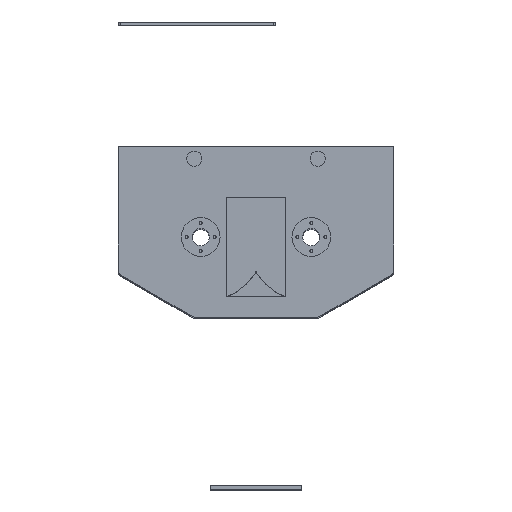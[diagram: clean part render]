
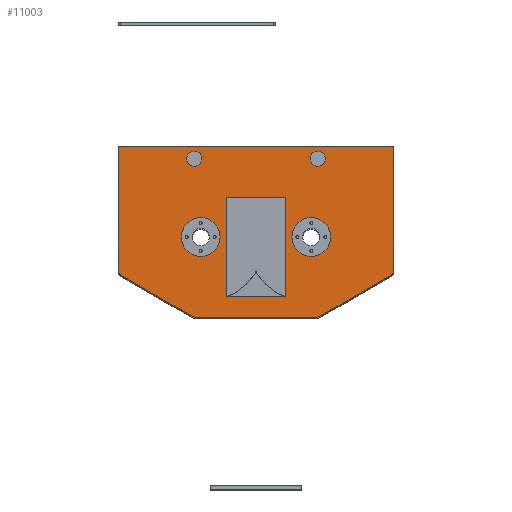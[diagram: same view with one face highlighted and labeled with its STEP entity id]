
A CAD part, top view. The second image highlights one B-rep face of the part: STEP entity #11003.
In plain terms, the highlighted planar face has unit normal (0, 0, 1) as drawn and (0, 0, -1) by its records, which use the part's own axes.
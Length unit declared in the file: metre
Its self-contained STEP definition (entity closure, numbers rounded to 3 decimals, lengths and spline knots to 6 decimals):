
#10852=CARTESIAN_POINT('',(0.395,-0.279,-0.84341));
#10853=DIRECTION('',(0.,0.,1.));
#10854=DIRECTION('',(1.,-0.,0.));
#10855=AXIS2_PLACEMENT_3D('',#10852,#10853,#10854);
#10856=PLANE('',#10855);
#10857=CARTESIAN_POINT('',(0.005,0.365,-0.84341));
#10858=VERTEX_POINT('',#10857);
#10859=CARTESIAN_POINT('',(-0.03,0.365,-0.84341));
#10860=DIRECTION('',(0.,0.,1.));
#10861=DIRECTION('',(1.,-0.,0.));
#10862=AXIS2_PLACEMENT_3D('',#10859,#10860,#10861);
#10863=CIRCLE('',#10862,0.035);
#10864=EDGE_CURVE('9969',#10858,#10858,#10863,.T.);
#10865=ORIENTED_EDGE('',*,*,#10864,.T.);
#10866=EDGE_LOOP('',(#10865));
#10867=FACE_BOUND('',#10866,.T.);
#10868=CARTESIAN_POINT('',(0.58,0.365,-0.84341));
#10869=VERTEX_POINT('',#10868);
#10870=CARTESIAN_POINT('',(0.545,0.365,-0.84341));
#10871=DIRECTION('',(0.,0.,1.));
#10872=DIRECTION('',(1.,-0.,0.));
#10873=AXIS2_PLACEMENT_3D('',#10870,#10871,#10872);
#10874=CIRCLE('',#10873,0.035);
#10875=EDGE_CURVE('9967',#10869,#10869,#10874,.T.);
#10876=ORIENTED_EDGE('',*,*,#10875,.T.);
#10877=EDGE_LOOP('',(#10876));
#10878=FACE_BOUND('',#10877,.T.);
#10879=CARTESIAN_POINT('',(-0.384,0.422,-0.84341));
#10880=VERTEX_POINT('9748',#10879);
#10881=CARTESIAN_POINT('',(-0.384,-0.159071,-0.84341));
#10882=VERTEX_POINT('9768',#10881);
#10883=CARTESIAN_POINT('',(-0.384,0.422,-0.84341));
#10884=DIRECTION('',(0.,-1.,0.));
#10885=VECTOR('',#10884,0.581071);
#10886=LINE('',#10883,#10885);
#10887=EDGE_CURVE('9899',#10880,#10882,#10886,.T.);
#10888=ORIENTED_EDGE('',*,*,#10887,.F.);
#10889=CARTESIAN_POINT('',(0.899,0.422,-0.84341));
#10890=VERTEX_POINT('9742',#10889);
#10891=CARTESIAN_POINT('',(0.899,0.422,-0.84341));
#10892=DIRECTION('',(-1.,0.,0.));
#10893=VECTOR('',#10892,1.283);
#10894=LINE('',#10891,#10893);
#10895=EDGE_CURVE('9895',#10890,#10880,#10894,.T.);
#10896=ORIENTED_EDGE('',*,*,#10895,.F.);
#10897=CARTESIAN_POINT('',(0.899,-0.159071,-0.84341));
#10898=VERTEX_POINT('9746',#10897);
#10899=CARTESIAN_POINT('',(0.899,-0.159071,-0.84341));
#10900=DIRECTION('',(0.,1.,0.));
#10901=VECTOR('',#10900,0.581071);
#10902=LINE('',#10899,#10901);
#10903=EDGE_CURVE('9893',#10898,#10890,#10902,.T.);
#10904=ORIENTED_EDGE('',*,*,#10903,.F.);
#10905=CARTESIAN_POINT('',(0.889,-0.176392,-0.84341));
#10906=VERTEX_POINT('9758',#10905);
#10907=CARTESIAN_POINT('',(0.879,-0.159071,-0.84341));
#10908=DIRECTION('',(0.,0.,1.));
#10909=DIRECTION('',(1.,-0.,0.));
#10910=AXIS2_PLACEMENT_3D('',#10907,#10908,#10909);
#10911=CIRCLE('',#10910,0.02);
#10912=EDGE_CURVE('9913',#10906,#10898,#10911,.T.);
#10913=ORIENTED_EDGE('',*,*,#10912,.F.);
#10914=CARTESIAN_POINT('',(0.545,-0.375,-0.84341));
#10915=VERTEX_POINT('9762',#10914);
#10916=CARTESIAN_POINT('',(0.545,-0.375,-0.84341));
#10917=DIRECTION('',(0.866,0.5,0.));
#10918=VECTOR('',#10917,0.397217);
#10919=LINE('',#10916,#10918);
#10920=EDGE_CURVE('9911',#10915,#10906,#10919,.T.);
#10921=ORIENTED_EDGE('',*,*,#10920,.F.);
#10922=CARTESIAN_POINT('',(-0.03,-0.375,-0.84341));
#10923=VERTEX_POINT('9764',#10922);
#10924=CARTESIAN_POINT('',(-0.03,-0.375,-0.84341));
#10925=DIRECTION('',(1.,0.,-0.));
#10926=VECTOR('',#10925,0.575);
#10927=LINE('',#10924,#10926);
#10928=EDGE_CURVE('9873',#10923,#10915,#10927,.T.);
#10929=ORIENTED_EDGE('',*,*,#10928,.F.);
#10930=CARTESIAN_POINT('',(-0.374,-0.176392,-0.84341));
#10931=VERTEX_POINT('9744',#10930);
#10932=CARTESIAN_POINT('',(-0.374,-0.176392,-0.84341));
#10933=DIRECTION('',(0.866,-0.5,0.));
#10934=VECTOR('',#10933,0.397217);
#10935=LINE('',#10932,#10934);
#10936=EDGE_CURVE('9927',#10931,#10923,#10935,.T.);
#10937=ORIENTED_EDGE('',*,*,#10936,.F.);
#10938=CARTESIAN_POINT('',(-0.364,-0.159071,-0.84341));
#10939=DIRECTION('',(0.,0.,1.));
#10940=DIRECTION('',(1.,-0.,0.));
#10941=AXIS2_PLACEMENT_3D('',#10938,#10939,#10940);
#10942=CIRCLE('',#10941,0.02);
#10943=EDGE_CURVE('9905',#10882,#10931,#10942,.T.);
#10944=ORIENTED_EDGE('',*,*,#10943,.F.);
#10945=EDGE_LOOP('',(#10888,#10896,#10904,#10913,#10921,#10929,#10937,#10944));
#10946=FACE_BOUND('',#10945,.T.);
#10947=CARTESIAN_POINT('',(0.605,0.,-0.84341));
#10948=VERTEX_POINT('',#10947);
#10949=CARTESIAN_POINT('',(0.515,0.,-0.84341));
#10950=DIRECTION('',(0.,0.,-1.));
#10951=DIRECTION('',(1.,0.,0.));
#10952=AXIS2_PLACEMENT_3D('',#10949,#10950,#10951);
#10953=CIRCLE('',#10952,0.09);
#10954=EDGE_CURVE('9937',#10948,#10948,#10953,.T.);
#10955=ORIENTED_EDGE('',*,*,#10954,.F.);
#10956=EDGE_LOOP('',(#10955));
#10957=FACE_BOUND('',#10956,.T.);
#10958=CARTESIAN_POINT('',(0.09,0.,-0.84341));
#10959=VERTEX_POINT('',#10958);
#10960=CARTESIAN_POINT('',(0.,0.,-0.84341));
#10961=DIRECTION('',(0.,0.,-1.));
#10962=DIRECTION('',(1.,0.,0.));
#10963=AXIS2_PLACEMENT_3D('',#10960,#10961,#10962);
#10964=CIRCLE('',#10963,0.09);
#10965=EDGE_CURVE('9981',#10959,#10959,#10964,.T.);
#10966=ORIENTED_EDGE('',*,*,#10965,.F.);
#10967=EDGE_LOOP('',(#10966));
#10968=FACE_BOUND('',#10967,.T.);
#10969=CARTESIAN_POINT('',(0.120001,0.185,-0.84341));
#10970=VERTEX_POINT('9778',#10969);
#10971=CARTESIAN_POINT('',(0.395,0.185,-0.84341));
#10972=VERTEX_POINT('9792',#10971);
#10973=CARTESIAN_POINT('',(0.120001,0.185,-0.84341));
#10974=DIRECTION('',(1.,0.,-0.));
#10975=VECTOR('',#10974,0.274999);
#10976=LINE('',#10973,#10975);
#10977=EDGE_CURVE('9833',#10970,#10972,#10976,.T.);
#10978=ORIENTED_EDGE('',*,*,#10977,.F.);
#10979=CARTESIAN_POINT('',(0.120001,-0.279,-0.84341));
#10980=VERTEX_POINT('9806',#10979);
#10981=CARTESIAN_POINT('',(0.120001,-0.279,-0.84341));
#10982=DIRECTION('',(0.,1.,0.));
#10983=VECTOR('',#10982,0.464);
#10984=LINE('',#10981,#10983);
#10985=EDGE_CURVE('9852',#10980,#10970,#10984,.T.);
#10986=ORIENTED_EDGE('',*,*,#10985,.F.);
#10987=CARTESIAN_POINT('',(0.395,-0.279,-0.84341));
#10988=VERTEX_POINT('9812',#10987);
#10989=CARTESIAN_POINT('',(0.395,-0.279,-0.84341));
#10990=DIRECTION('',(-1.,0.,0.));
#10991=VECTOR('',#10990,0.274999);
#10992=LINE('',#10989,#10991);
#10993=EDGE_CURVE('10021',#10988,#10980,#10992,.T.);
#10994=ORIENTED_EDGE('',*,*,#10993,.F.);
#10995=CARTESIAN_POINT('',(0.395,-0.279,-0.84341));
#10996=DIRECTION('',(0.,1.,0.));
#10997=VECTOR('',#10996,0.464);
#10998=LINE('',#10995,#10997);
#10999=EDGE_CURVE('9835',#10988,#10972,#10998,.T.);
#11000=ORIENTED_EDGE('',*,*,#10999,.T.);
#11001=EDGE_LOOP('',(#10978,#10986,#10994,#11000));
#11002=FACE_BOUND('',#11001,.T.);
#11003=ADVANCED_FACE('10193',(#10867,#10878,#10946,#10957,#10968,#11002),#10856,.F.);
